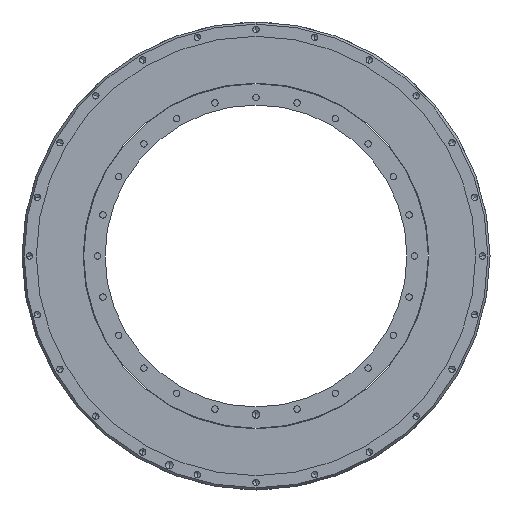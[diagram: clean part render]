
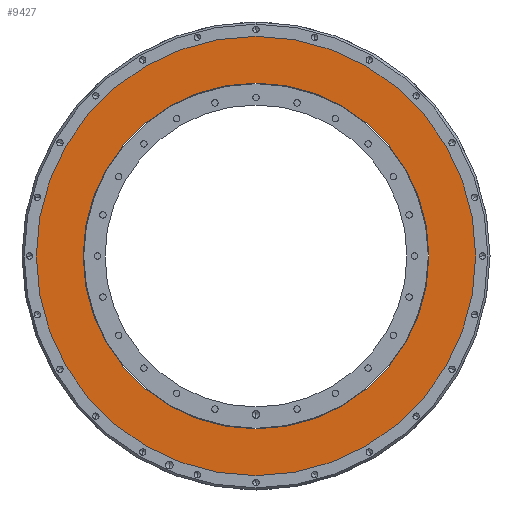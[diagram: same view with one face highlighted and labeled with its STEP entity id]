
A CAD part, front view. The second image highlights one B-rep face of the part: STEP entity #9427.
In plain terms, the highlighted planar face has unit normal (0, -1, 0).
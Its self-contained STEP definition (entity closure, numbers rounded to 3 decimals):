
#192 = CIRCLE ( 'NONE', #9261, 114.5 ) ;
#621 = CIRCLE ( 'NONE', #6706, 114.5 ) ;
#710 = ORIENTED_EDGE ( 'NONE', *, *, #10779, .T. ) ;
#752 = AXIS2_PLACEMENT_3D ( 'NONE', #6743, #12664, #7776 ) ;
#951 = CARTESIAN_POINT ( 'NONE',  ( 0., 1., -114.5 ) ) ;
#1278 = FACE_BOUND ( 'NONE', #11673, .T. ) ;
#2162 = DIRECTION ( 'NONE',  ( 0., 0., -1. ) ) ;
#2278 = CARTESIAN_POINT ( 'NONE',  ( 0., 1., 0. ) ) ;
#3289 = AXIS2_PLACEMENT_3D ( 'NONE', #10658, #4637, #9505 ) ;
#4250 = DIRECTION ( 'NONE',  ( 0., 0., -1. ) ) ;
#4431 = ORIENTED_EDGE ( 'NONE', *, *, #5194, .F. ) ;
#4522 = FACE_OUTER_BOUND ( 'NONE', #9587, .T. ) ;
#4637 = DIRECTION ( 'NONE',  ( 0., -1., 0. ) ) ;
#4665 = VERTEX_POINT ( 'NONE', #6230 ) ;
#5194 = EDGE_CURVE ( 'NONE', #4665, #7827, #621, .T. ) ;
#5699 = ORIENTED_EDGE ( 'NONE', *, *, #9558, .T. ) ;
#5764 = PLANE ( 'NONE',  #3289 ) ;
#6031 = DIRECTION ( 'NONE',  ( 0., 0., -1. ) ) ;
#6230 = CARTESIAN_POINT ( 'NONE',  ( 0., 1., 114.5 ) ) ;
#6706 = AXIS2_PLACEMENT_3D ( 'NONE', #11922, #11877, #2162 ) ;
#6743 = CARTESIAN_POINT ( 'NONE',  ( 0., 1., 0. ) ) ;
#6926 = CARTESIAN_POINT ( 'NONE',  ( 0., 1., 0. ) ) ;
#7142 = DIRECTION ( 'NONE',  ( 0., -1., 0. ) ) ;
#7776 = DIRECTION ( 'NONE',  ( 0., 0., -1. ) ) ;
#7827 = VERTEX_POINT ( 'NONE', #951 ) ;
#9261 = AXIS2_PLACEMENT_3D ( 'NONE', #6926, #9896, #6031 ) ;
#9427 = ADVANCED_FACE ( 'NONE', ( #4522, #1278 ), #5764, .T. ) ;
#9497 = CARTESIAN_POINT ( 'NONE',  ( 0., 1., -145.5 ) ) ;
#9505 = DIRECTION ( 'NONE',  ( 0., 0., -1. ) ) ;
#9558 = EDGE_CURVE ( 'NONE', #9813, #10026, #9634, .T. ) ;
#9587 = EDGE_LOOP ( 'NONE', ( #5699, #710 ) ) ;
#9634 = CIRCLE ( 'NONE', #752, 145.5 ) ;
#9813 = VERTEX_POINT ( 'NONE', #9497 ) ;
#9896 = DIRECTION ( 'NONE',  ( 0., -1., 0. ) ) ;
#10026 = VERTEX_POINT ( 'NONE', #10768 ) ;
#10248 = ORIENTED_EDGE ( 'NONE', *, *, #10638, .F. ) ;
#10638 = EDGE_CURVE ( 'NONE', #7827, #4665, #192, .T. ) ;
#10658 = CARTESIAN_POINT ( 'NONE',  ( 114.5, 1., 0. ) ) ;
#10768 = CARTESIAN_POINT ( 'NONE',  ( 0., 1., 145.5 ) ) ;
#10779 = EDGE_CURVE ( 'NONE', #10026, #9813, #11424, .T. ) ;
#11424 = CIRCLE ( 'NONE', #12130, 145.5 ) ;
#11673 = EDGE_LOOP ( 'NONE', ( #10248, #4431 ) ) ;
#11877 = DIRECTION ( 'NONE',  ( 0., -1., 0. ) ) ;
#11922 = CARTESIAN_POINT ( 'NONE',  ( 0., 1., 0. ) ) ;
#12130 = AXIS2_PLACEMENT_3D ( 'NONE', #2278, #7142, #4250 ) ;
#12664 = DIRECTION ( 'NONE',  ( 0., -1., 0. ) ) ;
